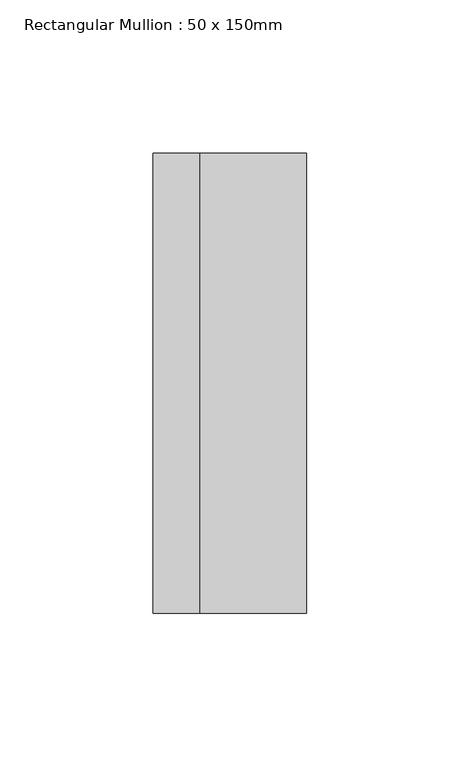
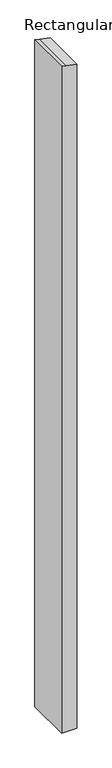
"""IFC4 building model written with IfcOpenShell, lengths in millimetres: member geometry, Rectangular Mullion : 50 x 150mm."""

from ifc_helpers import new_model, si_unit, frame, origin, place, context, project, spatial, polyline, outline, extrude, source, transform, mapped, element, save


def rectangular_mullion_50_x_150mm_8ca2007f(model_context):
    return source(origin(), model_context, "Body", "SweptSolid", [
        extrude(outline(polyline([(-56.0384112, 25.0), (-49.047809, -9.7128), (-46.0717782, -25.0), (-2340.8468387, -25.0), (-2340.8468387, 25.0), (-56.0384112, 25.0)])), frame((0.0, -75.0, 0.0), z_axis=(0.0, 1.0, 0.0), x_axis=(0.0, 0.0, 1.0)), (0.0, 0.0, 1.0), 150.0),
    ])


if __name__ == "__main__":
    model = new_model("IFC4")
    model_context = context("Model", 3, world=origin())
    ifc_project = project(units=[si_unit("LENGTHUNIT", "METRE", prefix="MILLI")], contexts=[model_context])
    site = spatial("IfcSite", under=ifc_project)
    building = spatial("IfcBuilding", under=site)
    placement = place(None, origin())
    rectangular_mullion_50_x_150mm_shape = rectangular_mullion_50_x_150mm_8ca2007f(model_context)
    element("IfcMember", 1, ObjectType="Rectangular Mullion : 50 x 150mm", at=placement, inside=building, context=model_context, shape_type="MappedRepresentation", body=[
        mapped(rectangular_mullion_50_x_150mm_shape, transform((0.0, 0.0, 0.0), x_axis=(1.0, 0.0, 0.0), y_axis=(0.0, 1.0, 0.0), z_axis=(0.0, 0.0, 1.0))),
    ])
    save(model, "model.ifc")
